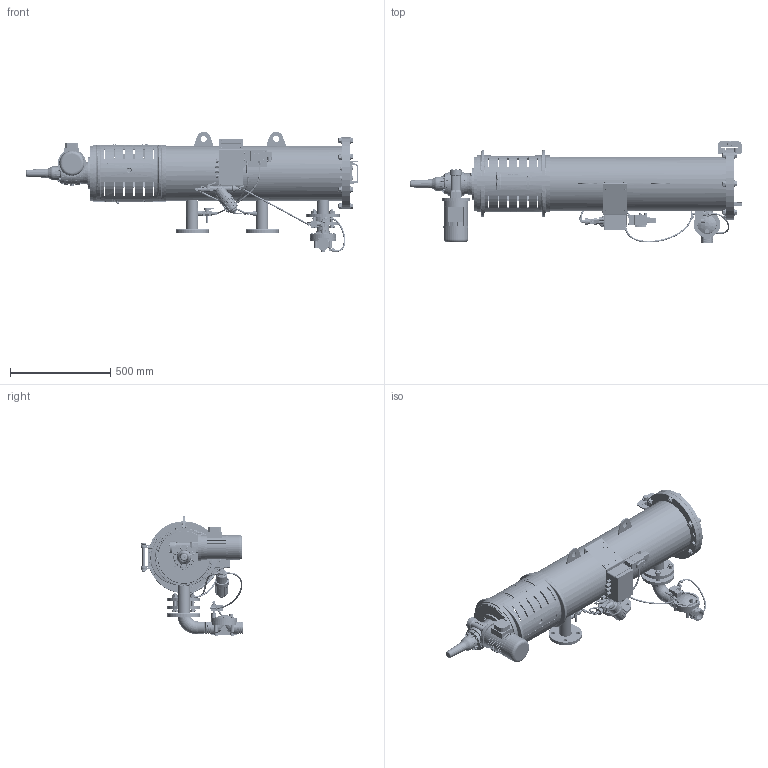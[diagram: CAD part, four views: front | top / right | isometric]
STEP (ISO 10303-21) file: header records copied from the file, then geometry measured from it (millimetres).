
FILE_DESCRIPTION (( 'STEP AP214' ), '1' );
FILE_NAME ('041041-000029.STEP', '2023-02-07T11:02:15', ( '' ), ( '' ), 'SwSTEP 2.0', 'SolidWorks 2019', '' );
FILE_SCHEMA (( 'AUTOMOTIVE_DESIGN' ));
Length unit declared in the file: millimetre
Products named in the file (1): 041041-000029
Bounding box: 1658.82 x 510.8 x 600.78 mm (x, y, z)
Volume: 20847341.8 mm3; surface area: 5433935.1 mm2
Topology: 269 solids, 274 shells, 17926 faces, 43391 edges, 26249 vertices
Faces by surface type: plane 8285, bspline 3292, cylinder 2957, cone 1617, torus 1405, sphere 370
Full cylindrical faces by diameter (mm): 1.2 x10, 2 x2, 2.381 x2, 2.4 x4, 3 x6, 3.5 x5, 3.9 x4, 4 x20, 4.134 x4, 4.166 x2, 4.2 x1, 4.4 x2, 4.7 x2, 4.75 x12, 4.763 x2, 4.773 x6, 4.917 x2, 4.971 x4, 5 x22, 5.7 x9, 6 x41, 6.2 x3, 6.5 x14, 6.6 x3, 6.858 x2, 7 x11, 7.137 x21, 7.187 x1, 7.5 x2, 7.95 x10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
Entity records: 941780 total; most frequent: CARTESIAN_POINT 367882, ORIENTED_EDGE 81112, DIRECTION 70296, EDGE_CURVE 40556, AXIS2_PLACEMENT_3D 27181, VERTEX_POINT 25721, EDGE_LOOP 21181, FACE_OUTER_BOUND 19033
